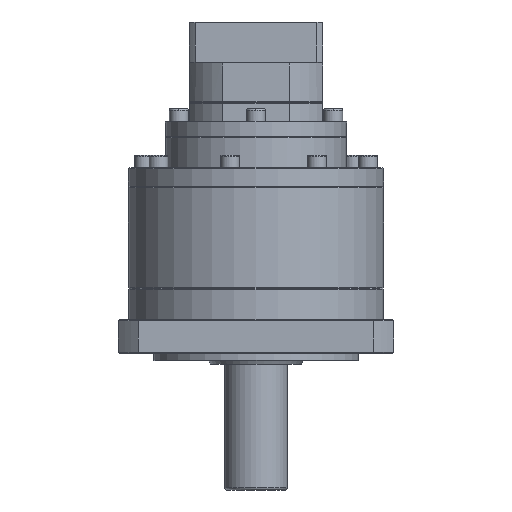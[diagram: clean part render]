
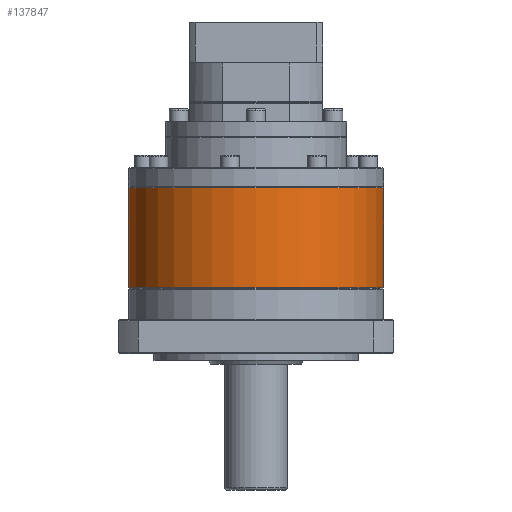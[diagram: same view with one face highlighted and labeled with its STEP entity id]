
A CAD part, front view. The second image highlights one B-rep face of the part: STEP entity #137847.
In plain terms, the highlighted cylindrical face has radius 81 mm (diameter 162 mm), a partial arc.
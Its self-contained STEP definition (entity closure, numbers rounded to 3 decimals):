
#968 = ORIENTED_EDGE ( 'NONE', *, *, #70243, .T. ) ;
#5066 = CARTESIAN_POINT ( 'NONE',  ( -72.465, 71.501, -186.421 ) ) ;
#5269 = ORIENTED_EDGE ( 'NONE', *, *, #34519, .T. ) ;
#20390 = DIRECTION ( 'NONE',  ( 0., 0., -1. ) ) ;
#21552 = ORIENTED_EDGE ( 'NONE', *, *, #24184, .T. ) ;
#24165 = VECTOR ( 'NONE', #20390, 1000. ) ;
#24184 = EDGE_CURVE ( 'NONE', #79574, #28814, #31067, .T. ) ;
#28814 = VERTEX_POINT ( 'NONE', #74864 ) ;
#30411 = CARTESIAN_POINT ( 'NONE',  ( -234.465, 71.501, -122.421 ) ) ;
#31067 = LINE ( 'NONE', #30411, #24165 ) ;
#31107 = DIRECTION ( 'NONE',  ( 0., 0., -1. ) ) ;
#32381 = LINE ( 'NONE', #55993, #130672 ) ;
#33584 = CARTESIAN_POINT ( 'NONE',  ( -153.465, 71.501, -186.421 ) ) ;
#34519 = EDGE_CURVE ( 'NONE', #63377, #79574, #86839, .T. ) ;
#54683 = DIRECTION ( 'NONE',  ( -1., 0., 0. ) ) ;
#55993 = CARTESIAN_POINT ( 'NONE',  ( -72.465, 71.501, -122.421 ) ) ;
#63377 = VERTEX_POINT ( 'NONE', #79728 ) ;
#63810 = CARTESIAN_POINT ( 'NONE',  ( -153.465, 71.501, -122.921 ) ) ;
#70243 = EDGE_CURVE ( 'NONE', #28814, #72127, #116269, .T. ) ;
#72127 = VERTEX_POINT ( 'NONE', #5066 ) ;
#73720 = DIRECTION ( 'NONE',  ( -1., 0., 0. ) ) ;
#74864 = CARTESIAN_POINT ( 'NONE',  ( -234.465, 71.501, -186.421 ) ) ;
#75428 = DIRECTION ( 'NONE',  ( 0., 0., -1. ) ) ;
#79574 = VERTEX_POINT ( 'NONE', #115671 ) ;
#79728 = CARTESIAN_POINT ( 'NONE',  ( -72.465, 71.501, -122.921 ) ) ;
#84027 = AXIS2_PLACEMENT_3D ( 'NONE', #63810, #31107, #73720 ) ;
#86839 = CIRCLE ( 'NONE', #84027, 81. ) ;
#87652 = AXIS2_PLACEMENT_3D ( 'NONE', #33584, #121097, #109772 ) ;
#87947 = EDGE_CURVE ( 'NONE', #63377, #72127, #32381, .T. ) ;
#97000 = EDGE_LOOP ( 'NONE', ( #140538, #5269, #21552, #968 ) ) ;
#98787 = AXIS2_PLACEMENT_3D ( 'NONE', #129986, #140357, #54683 ) ;
#109772 = DIRECTION ( 'NONE',  ( -1., 0., 0. ) ) ;
#115671 = CARTESIAN_POINT ( 'NONE',  ( -234.465, 71.501, -122.921 ) ) ;
#116269 = CIRCLE ( 'NONE', #87652, 81. ) ;
#117143 = CYLINDRICAL_SURFACE ( 'NONE', #98787, 81. ) ;
#118910 = FACE_OUTER_BOUND ( 'NONE', #97000, .T. ) ;
#121097 = DIRECTION ( 'NONE',  ( 0., 0., 1. ) ) ;
#129986 = CARTESIAN_POINT ( 'NONE',  ( -153.465, 71.501, -122.421 ) ) ;
#130672 = VECTOR ( 'NONE', #75428, 1000. ) ;
#137847 = ADVANCED_FACE ( 'NONE', ( #118910 ), #117143, .T. ) ;
#140357 = DIRECTION ( 'NONE',  ( 0., 0., -1. ) ) ;
#140538 = ORIENTED_EDGE ( 'NONE', *, *, #87947, .F. ) ;
